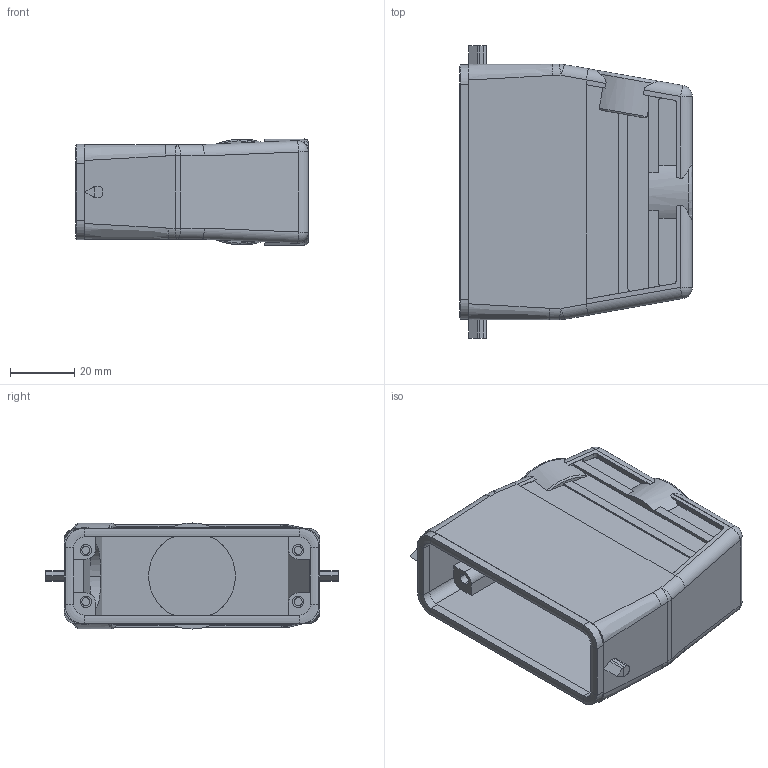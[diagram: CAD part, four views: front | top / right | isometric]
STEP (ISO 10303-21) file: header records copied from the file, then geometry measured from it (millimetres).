
FILE_DESCRIPTION (( 'STEP AP203' ), '1' );
FILE_NAME ('H16A-TSH-M20.STEP', '2023-05-11T12:09:22', ( '' ), ( '' ), 'SwSTEP 2.0', 'SolidWorks 2016', '' );
FILE_SCHEMA (( 'CONFIG_CONTROL_DESIGN' ));
Length unit declared in the file: millimetre
Products named in the file (3): H16A-TSH-M20; 16A-XIANGJIAODIAN; H16A-TSH
Assembly tree (2 placements, depth 2):
  H16A-TSH-M20
    H16A-TSH
    16A-XIANGJIAODIAN
Bounding box: 72.29 x 90.9 x 33 mm (x, y, z)
Volume: 1217.5 mm3; surface area: 35662.4 mm2
Topology: 1 solids, 2 shells, 271 faces, 739 edges, 472 vertices
Faces by surface type: plane 139, cylinder 107, bspline 11, torus 10, sphere 4
Entity records: 10526 total; most frequent: CARTESIAN_POINT 3552, ORIENTED_EDGE 1462, DIRECTION 1306, EDGE_CURVE 735, VERTEX_POINT 472, AXIS2_PLACEMENT_3D 439, VECTOR 428, LINE 428
